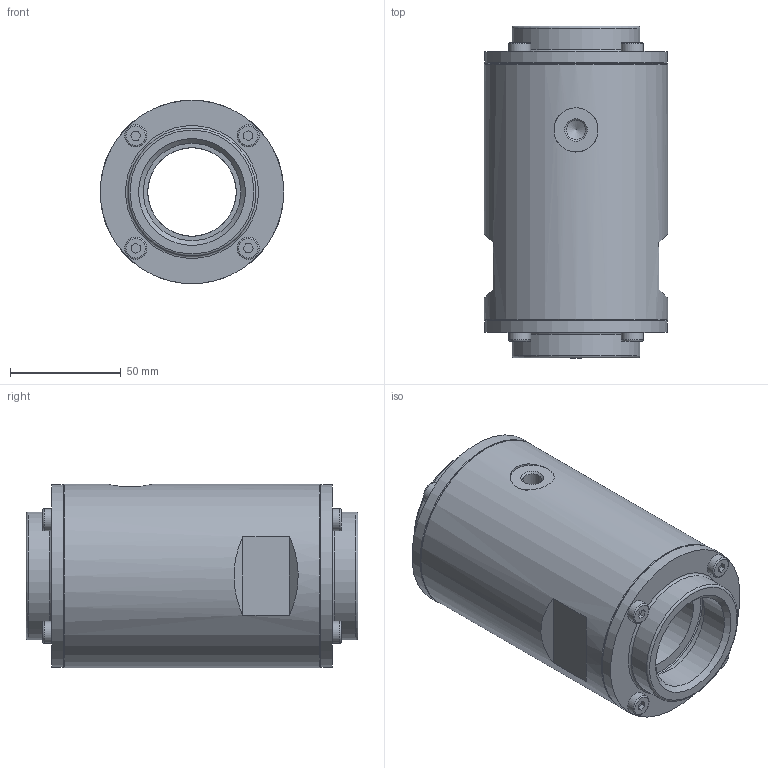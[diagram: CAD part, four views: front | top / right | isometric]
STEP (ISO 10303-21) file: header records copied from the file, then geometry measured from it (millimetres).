
FILE_DESCRIPTION(/* description */ (''),/* implementation_level */ '2;1');
FILE_NAME(/* name */ 'Serie70_QV40_assembly_VEREINFACHT.stp',/* time_stamp */ '2013-10-05T12:58:36+02:00',/* author */ (''),/* organization */ (''),/* preprocessor_version */ 'ST-DEVELOPER v11',/* originating_system */ 'SIEMENS PLM Software NX 7.5',/* authorisation */ '');
FILE_SCHEMA (('AUTOMOTIVE_DESIGN { 1 0 10303 214 1 1 1 1 }'));
Length unit declared in the file: millimetre
Products named in the file (1): memd369C6jw6
Bounding box: 83 x 150 x 83 mm (x, y, z)
Volume: 538303.8 mm3; surface area: 105789.6 mm2
Topology: 27 solids, 27 shells, 292 faces, 592 edges, 386 vertices
Faces by surface type: plane 139, cylinder 91, torus 34, cone 28
Full cylindrical faces by diameter (mm): 4.92 x16, 5 x8, 6 x24, 6.2 x8, 6.5 x8, 8.611 x1, 10 x8, 40 x3, 44.054 x2, 50.7 x2, 58 x2, 78.8 x2, 79.1 x2, 83 x3
Entity records: 6697 total; most frequent: DIRECTION 1202, CARTESIAN_POINT 1034, ORIENTED_EDGE 762, AXIS2_PLACEMENT_3D 524, EDGE_LOOP 514, FACE_BOUND 435, EDGE_CURVE 381, VERTEX_POINT 336
